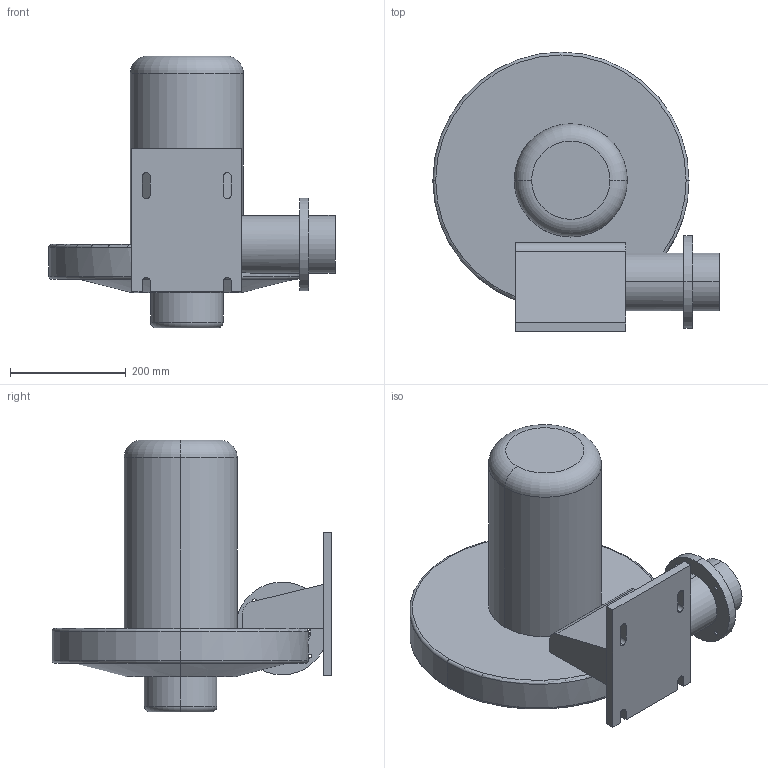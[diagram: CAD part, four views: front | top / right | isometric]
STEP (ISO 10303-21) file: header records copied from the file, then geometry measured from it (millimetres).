
FILE_DESCRIPTION (( 'STEP AP203' ), '1' );
FILE_NAME ('CX-1500.STEP', '2019-04-25T09:04:27', ( 'User' ), ( 'www.dadighost.com' ), 'SwSTEP 2.0', 'SolidWorks 2014', '' );
FILE_SCHEMA (( 'CONFIG_CONTROL_DESIGN' ));
Length unit declared in the file: millimetre
Products named in the file (1): CX-1500
Bounding box: 494 x 482.65 x 469 mm (x, y, z)
Volume: 23531088.7 mm3; surface area: 954834.4 mm2
Topology: 3 solids, 3 shells, 73 faces, 181 edges, 118 vertices
Faces by surface type: cylinder 31, plane 31, torus 9, cone 2
Entity records: 2446 total; most frequent: CARTESIAN_POINT 535, DIRECTION 407, ORIENTED_EDGE 362, EDGE_CURVE 181, AXIS2_PLACEMENT_3D 158, VERTEX_POINT 118, VECTOR 91, EDGE_LOOP 91
